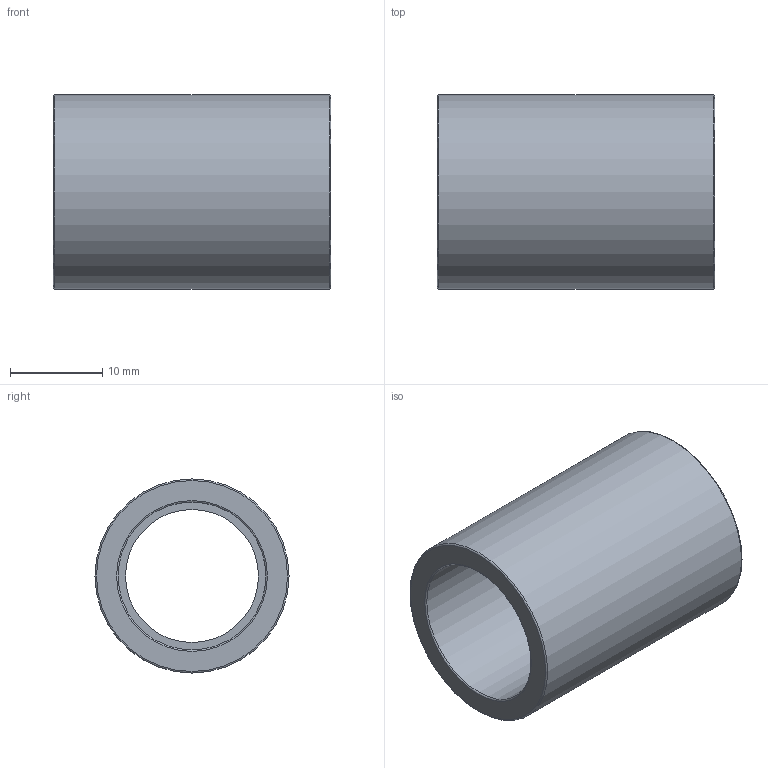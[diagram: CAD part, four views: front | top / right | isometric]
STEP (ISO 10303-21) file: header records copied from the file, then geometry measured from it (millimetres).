
FILE_DESCRIPTION(/* description */ ('PLASSON SOCKET PVC 16 - CEMENT'),/* implementation_level */ '2;1');
FILE_NAME(/* name */ 'C:\Dropbox\KIMPROJECTS-Inventor\99-16-3568-Processing\PVC Catalog 2017\050100\050100016.ipt.stp',/* time_stamp */ '2017-12-07T15:51:17+02:00',/* author */ ('KIM'),/* organization */ (''),/* preprocessor_version */ 'ST-DEVELOPER v15.6',/* originating_system */ 'Autodesk Inventor 2015',/* authorisation */ '');
FILE_SCHEMA (('AUTOMOTIVE_DESIGN { 1 0 10303 214 3 1 1 }'));
Length unit declared in the file: millimetre
Products named in the file (1): 050100016
Bounding box: 30 x 21 x 21 mm (x, y, z)
Volume: 4434.1 mm3; surface area: 3828.2 mm2
Topology: 1 solids, 1 shells, 12 faces, 20 edges, 12 vertices
Faces by surface type: torus 4, plane 4, cylinder 4
Full cylindrical faces by diameter (mm): 14.4 x1, 16 x2, 21 x1
Entity records: 272 total; most frequent: DIRECTION 50, CARTESIAN_POINT 37, AXIS2_PLACEMENT_3D 25, EDGE_LOOP 24, ORIENTED_EDGE 24, FACE_BOUND 12, FACE_OUTER_BOUND 12, CIRCLE 12
